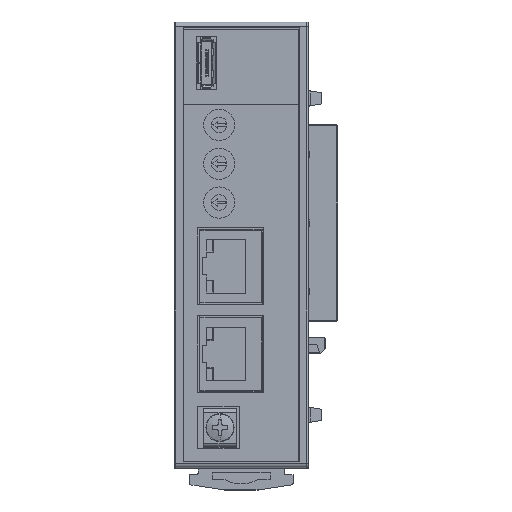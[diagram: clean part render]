
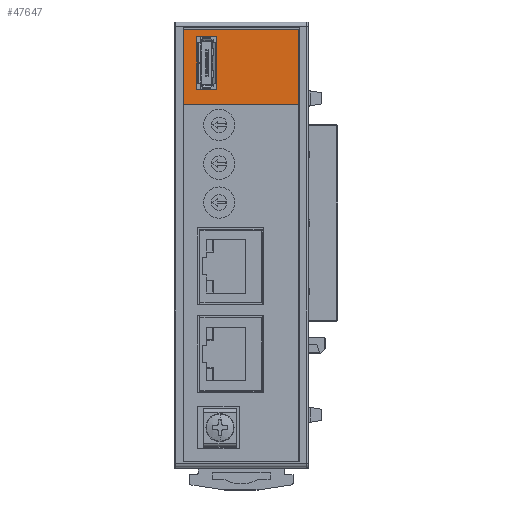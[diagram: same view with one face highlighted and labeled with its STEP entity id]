
A CAD part, top view. The second image highlights one B-rep face of the part: STEP entity #47647.
In plain terms, the highlighted planar face has unit normal (0, 0, 1).
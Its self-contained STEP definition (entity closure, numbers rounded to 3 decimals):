
#1331 = EDGE_CURVE ( 'NONE', #113449, #64951, #103650, .T. ) ;
#2545 = ORIENTED_EDGE ( 'NONE', *, *, #31487, .T. ) ;
#4173 = DIRECTION ( 'NONE',  ( 1., 0., 0. ) ) ;
#4627 = CARTESIAN_POINT ( 'NONE',  ( -13.05, 31.6, 152.536 ) ) ;
#10318 = VECTOR ( 'NONE', #87184, 1000. ) ;
#13132 = CARTESIAN_POINT ( 'NONE',  ( -10., 34.9, 152.536 ) ) ;
#15010 = CARTESIAN_POINT ( 'NONE',  ( -10., 34.9, 152.536 ) ) ;
#15197 = VECTOR ( 'NONE', #80398, 1000. ) ;
#15426 = CARTESIAN_POINT ( 'NONE',  ( -10., 46.7, 152.536 ) ) ;
#16923 = AXIS2_PLACEMENT_3D ( 'NONE', #65690, #110202, #49086 ) ;
#19130 = VERTEX_POINT ( 'NONE', #62992 ) ;
#20961 = EDGE_CURVE ( 'NONE', #83806, #19130, #63127, .T. ) ;
#22070 = VECTOR ( 'NONE', #41624, 1000. ) ;
#22431 = PLANE ( 'NONE',  #16923 ) ;
#24560 = EDGE_LOOP ( 'NONE', ( #51360, #109284, #51177, #2545 ) ) ;
#25448 = EDGE_CURVE ( 'NONE', #19130, #107508, #102834, .T. ) ;
#25457 = ORIENTED_EDGE ( 'NONE', *, *, #20961, .F. ) ;
#28373 = VERTEX_POINT ( 'NONE', #38191 ) ;
#28871 = LINE ( 'NONE', #59950, #15197 ) ;
#29115 = LINE ( 'NONE', #105105, #31914 ) ;
#31487 = EDGE_CURVE ( 'NONE', #94850, #28373, #28871, .T. ) ;
#31914 = VECTOR ( 'NONE', #78764, 1000. ) ;
#33467 = CARTESIAN_POINT ( 'NONE',  ( -13.05, 48.4, 152.536 ) ) ;
#36397 = VECTOR ( 'NONE', #4173, 1000. ) ;
#38191 = CARTESIAN_POINT ( 'NONE',  ( -13.05, 31.6, 152.536 ) ) ;
#39078 = ORIENTED_EDGE ( 'NONE', *, *, #65691, .F. ) ;
#40660 = LINE ( 'NONE', #4627, #88997 ) ;
#41624 = DIRECTION ( 'NONE',  ( 0., 1., 0. ) ) ;
#42963 = EDGE_CURVE ( 'NONE', #113449, #28373, #40660, .T. ) ;
#47647 = ADVANCED_FACE ( 'NONE', ( #97797, #65921 ), #22431, .T. ) ;
#49086 = DIRECTION ( 'NONE',  ( 1., 0., 0. ) ) ;
#51056 = CARTESIAN_POINT ( 'NONE',  ( 12.75, 31.6, 152.536 ) ) ;
#51177 = ORIENTED_EDGE ( 'NONE', *, *, #82975, .T. ) ;
#51360 = ORIENTED_EDGE ( 'NONE', *, *, #42963, .F. ) ;
#54880 = VERTEX_POINT ( 'NONE', #95630 ) ;
#56323 = VECTOR ( 'NONE', #58266, 1000. ) ;
#57411 = CARTESIAN_POINT ( 'NONE',  ( 12.75, 48.4, 152.536 ) ) ;
#57669 = CARTESIAN_POINT ( 'NONE',  ( -13.05, 48.4, 152.536 ) ) ;
#58266 = DIRECTION ( 'NONE',  ( -1., 0., 0. ) ) ;
#58512 = VECTOR ( 'NONE', #64316, 1000. ) ;
#59950 = CARTESIAN_POINT ( 'NONE',  ( -13.05, 48.4, 152.536 ) ) ;
#62992 = CARTESIAN_POINT ( 'NONE',  ( -10., 46.7, 152.536 ) ) ;
#63127 = LINE ( 'NONE', #15426, #56323 ) ;
#64316 = DIRECTION ( 'NONE',  ( 0., -1., 0. ) ) ;
#64951 = VERTEX_POINT ( 'NONE', #75376 ) ;
#65691 = EDGE_CURVE ( 'NONE', #54880, #83806, #29115, .T. ) ;
#65690 = CARTESIAN_POINT ( 'NONE',  ( -13.05, -48.7, 152.536 ) ) ;
#65921 = FACE_BOUND ( 'NONE', #103622, .T. ) ;
#75376 = CARTESIAN_POINT ( 'NONE',  ( 12.75, 48.4, 152.536 ) ) ;
#78764 = DIRECTION ( 'NONE',  ( 0., 1., 0. ) ) ;
#80398 = DIRECTION ( 'NONE',  ( 0., -1., 0. ) ) ;
#81148 = ORIENTED_EDGE ( 'NONE', *, *, #105031, .F. ) ;
#82975 = EDGE_CURVE ( 'NONE', #64951, #94850, #114078, .T. ) ;
#83424 = LINE ( 'NONE', #13132, #36397 ) ;
#83806 = VERTEX_POINT ( 'NONE', #90461 ) ;
#83812 = ORIENTED_EDGE ( 'NONE', *, *, #25448, .F. ) ;
#87184 = DIRECTION ( 'NONE',  ( -1., 0., 0. ) ) ;
#88997 = VECTOR ( 'NONE', #109452, 1000. ) ;
#90461 = CARTESIAN_POINT ( 'NONE',  ( -5.5, 46.7, 152.536 ) ) ;
#94850 = VERTEX_POINT ( 'NONE', #57669 ) ;
#95630 = CARTESIAN_POINT ( 'NONE',  ( -5.5, 34.9, 152.536 ) ) ;
#97797 = FACE_OUTER_BOUND ( 'NONE', #24560, .T. ) ;
#100683 = CARTESIAN_POINT ( 'NONE',  ( -10., 34.9, 152.536 ) ) ;
#102834 = LINE ( 'NONE', #100683, #58512 ) ;
#103622 = EDGE_LOOP ( 'NONE', ( #83812, #25457, #39078, #81148 ) ) ;
#103650 = LINE ( 'NONE', #57411, #22070 ) ;
#105031 = EDGE_CURVE ( 'NONE', #107508, #54880, #83424, .T. ) ;
#105105 = CARTESIAN_POINT ( 'NONE',  ( -5.5, 34.9, 152.536 ) ) ;
#107508 = VERTEX_POINT ( 'NONE', #15010 ) ;
#109284 = ORIENTED_EDGE ( 'NONE', *, *, #1331, .T. ) ;
#109452 = DIRECTION ( 'NONE',  ( -1., 0., 0. ) ) ;
#110202 = DIRECTION ( 'NONE',  ( 0., 0., 1. ) ) ;
#113449 = VERTEX_POINT ( 'NONE', #51056 ) ;
#114078 = LINE ( 'NONE', #33467, #10318 ) ;
